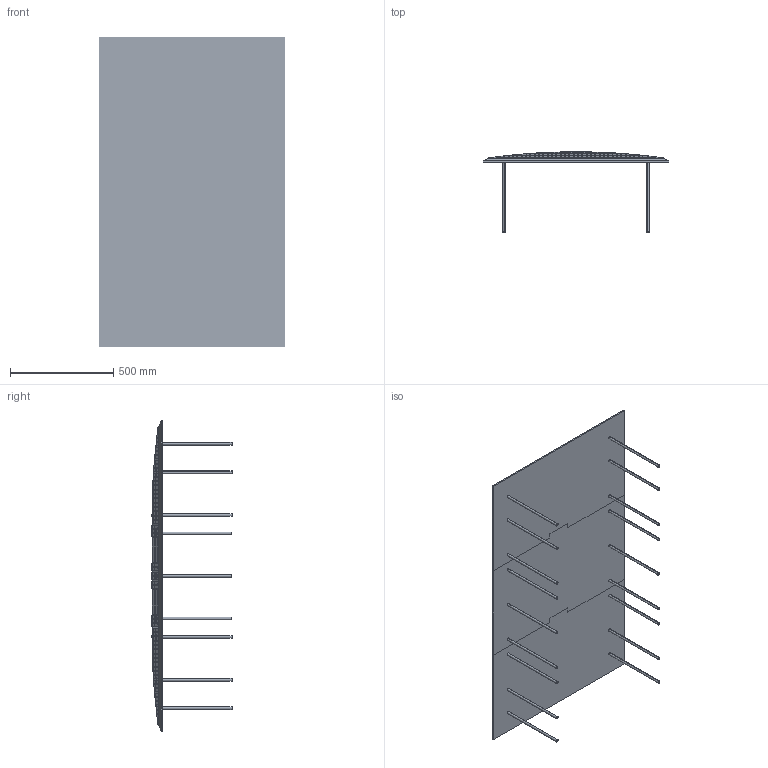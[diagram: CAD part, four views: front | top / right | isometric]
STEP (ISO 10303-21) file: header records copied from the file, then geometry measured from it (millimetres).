
FILE_DESCRIPTION (( 'STEP AP214' ), '1' );
FILE_NAME ('Safety Rider Assembly.STEP', '2024-06-10T21:27:03', ( '' ), ( '' ), 'SwSTEP 2.0', 'SolidWorks 2013', '' );
FILE_SCHEMA (( 'AUTOMOTIVE_DESIGN' ));
Length unit declared in the file: inch
Products named in the file (4): female end boot; Safety Rider Assembly; male end boot; Safety Rider Center
Assembly tree (3 placements, depth 2):
  Safety Rider Assembly
    Safety Rider Center
    female end boot
    male end boot
Bounding box: 899.16 x 387.3 x 1501.14 mm (x, y, z)
Volume: 47704618.1 mm3; surface area: 4495370.6 mm2
Topology: 371 solids, 371 shells, 3113 faces, 6672 edges, 4446 vertices
Faces by surface type: plane 1143, cylinder 1002, bspline 968
Entity records: 187891 total; most frequent: CARTESIAN_POINT 120616, ORIENTED_EDGE 13344, DIRECTION 10878, EDGE_CURVE 6672, VERTEX_POINT 4446, AXIS2_PLACEMENT_3D 4271, EDGE_LOOP 3294, ADVANCED_FACE 3113
